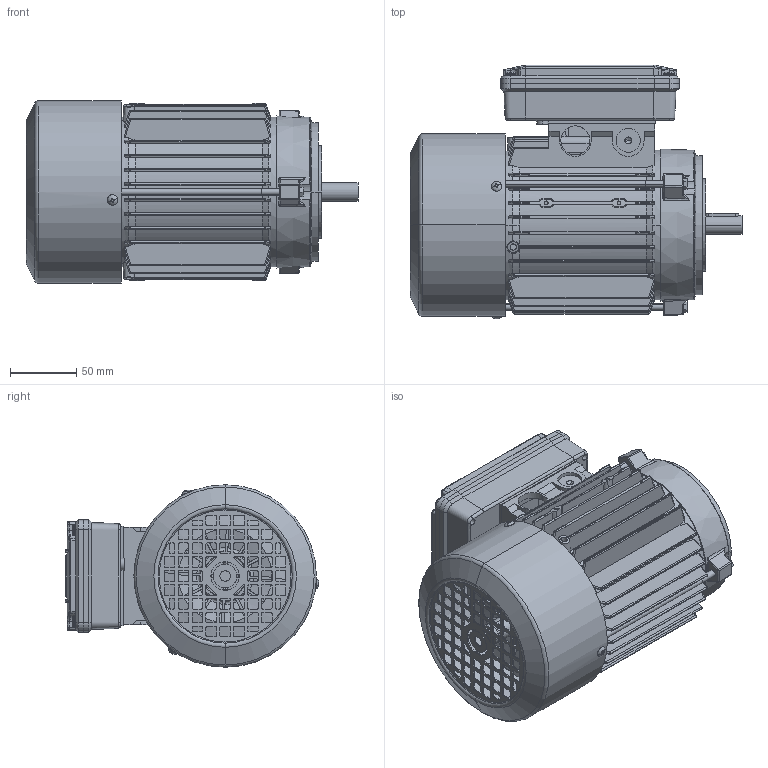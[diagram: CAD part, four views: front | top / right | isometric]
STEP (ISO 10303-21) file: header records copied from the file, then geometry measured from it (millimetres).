
FILE_DESCRIPTION (( 'STEP AP214' ), '1' );
FILE_NAME ('SM 71 B14 - DM.STEP', '2018-05-23T08:12:11', ( '' ), ( '' ), 'SwSTEP 2.0', 'SolidWorks 2018', '' );
FILE_SCHEMA (( 'AUTOMOTIVE_DESIGN' ));
Length unit declared in the file: millimetre
Products named in the file (15): Guarnizione Scatola Singola 63-71-80; Scatola per Morsettiera Doppia 63-71-80 - Completa; Vite per coperchio morsettiera; Coperchio per Scatola per Morsettiera Doppia 63-71-80; Scatola per Morsettiera Doppia 63-71-80; Vite testa rotonda M3; Cuffia SM 71; Dado M4; Tirante BM 71; Scudo Lato Comando B3 BA-BM 71- DBAD0094; Chiavetta 71; Albero SM 71 - DBD40096; Scudo a Flangia B14 BA-BM 71 - DBAC0194; Carcassa 71 B5; SM 71 B14 - DM
Assembly tree (23 placements, depth 3):
  SM 71 B14 - DM
    Carcassa 71 B5
    Scudo a Flangia B14 BA-BM 71 - DBAC0194
    Albero SM 71 - DBD40096
    Chiavetta 71
    Scudo Lato Comando B3 BA-BM 71- DBAD0094
    Tirante BM 71  x3
    Dado M4  x3
    Cuffia SM 71
    Vite testa rotonda M3  x3
    Scatola per Morsettiera Doppia 63-71-80 - Completa
      Scatola per Morsettiera Doppia 63-71-80
      Coperchio per Scatola per Morsettiera Doppia 63-71-80
      Vite per coperchio morsettiera  x4
    Guarnizione Scatola Singola 63-71-80
Bounding box: 251 x 191.92 x 138 mm (x, y, z)
Volume: 579077.2 mm3; surface area: 460589 mm2
Topology: 25 solids, 25 shells, 3336 faces, 9022 edges, 5664 vertices
Faces by surface type: cylinder 1079, plane 1062, torus 446, bspline 443, cone 292, sphere 14
Entity records: 110138 total; most frequent: CARTESIAN_POINT 38846, ORIENTED_EDGE 15888, DIRECTION 13427, EDGE_CURVE 7944, AXIS2_PLACEMENT_3D 5176, VERTEX_POINT 5078, EDGE_LOOP 3248, LINE 3075
